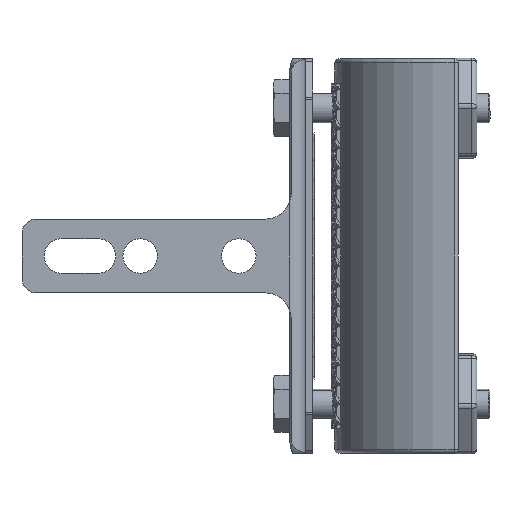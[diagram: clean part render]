
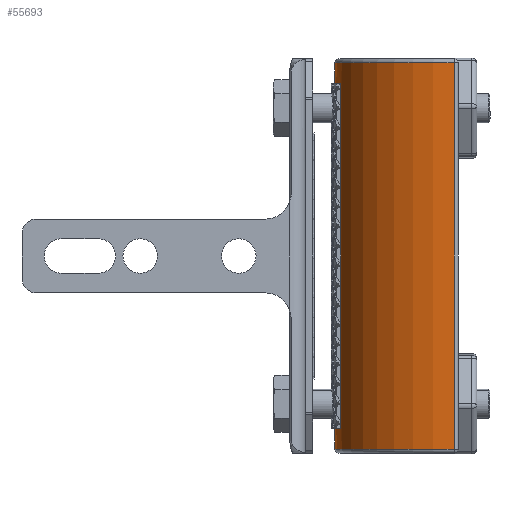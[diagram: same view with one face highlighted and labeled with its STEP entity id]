
A CAD part, left-side view. The second image highlights one B-rep face of the part: STEP entity #55693.
In plain terms, the highlighted cylindrical face has radius 25 mm (diameter 50 mm), a partial arc.
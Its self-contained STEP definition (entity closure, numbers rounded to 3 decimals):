
#548 = VERTEX_POINT ( 'NONE', #56103 ) ;
#1087 = AXIS2_PLACEMENT_3D ( 'NONE', #43068, #55900, #9887 ) ;
#1172 = CARTESIAN_POINT ( 'NONE',  ( -7.5, 23.848, -35. ) ) ;
#1203 = EDGE_LOOP ( 'NONE', ( #49667, #30813, #44778, #5328 ) ) ;
#2832 = DIRECTION ( 'NONE',  ( 0., 0., 1. ) ) ;
#4632 = CARTESIAN_POINT ( 'NONE',  ( 0., 0., 39.25 ) ) ;
#5328 = ORIENTED_EDGE ( 'NONE', *, *, #37073, .T. ) ;
#6333 = CARTESIAN_POINT ( 'NONE',  ( -7.5, 23.848, 35. ) ) ;
#8003 = CARTESIAN_POINT ( 'NONE',  ( 0., 0., -39.25 ) ) ;
#8675 = DIRECTION ( 'NONE',  ( 1., 0., 0. ) ) ;
#9354 = VERTEX_POINT ( 'NONE', #21393 ) ;
#9525 = EDGE_CURVE ( 'NONE', #65986, #39772, #28785, .T. ) ;
#9887 = DIRECTION ( 'NONE',  ( -1., 0., 0. ) ) ;
#9922 = EDGE_CURVE ( 'NONE', #10798, #30070, #42062, .T. ) ;
#10208 = CARTESIAN_POINT ( 'NONE',  ( -24.988, 0.773, 39.25 ) ) ;
#10289 = DIRECTION ( 'NONE',  ( 0., 0., -1. ) ) ;
#10798 = VERTEX_POINT ( 'NONE', #30206 ) ;
#10985 = DIRECTION ( 'NONE',  ( 0., 0., -1. ) ) ;
#11974 = CIRCLE ( 'NONE', #41110, 25. ) ;
#12000 = CARTESIAN_POINT ( 'NONE',  ( -24.988, 0.773, -39.25 ) ) ;
#14808 = VERTEX_POINT ( 'NONE', #10208 ) ;
#14857 = DIRECTION ( 'NONE',  ( 0., 0., -1. ) ) ;
#15095 = LINE ( 'NONE', #16455, #69002 ) ;
#16455 = CARTESIAN_POINT ( 'NONE',  ( 24.988, 0.773, 40. ) ) ;
#16624 = FACE_BOUND ( 'NONE', #1203, .T. ) ;
#17075 = CARTESIAN_POINT ( 'NONE',  ( 7.5, 23.848, -35. ) ) ;
#19143 = EDGE_CURVE ( 'NONE', #14808, #49513, #41995, .T. ) ;
#19813 = VECTOR ( 'NONE', #48494, 1000. ) ;
#20774 = CIRCLE ( 'NONE', #23596, 25. ) ;
#20821 = VECTOR ( 'NONE', #36034, 1000. ) ;
#21393 = CARTESIAN_POINT ( 'NONE',  ( 24.988, 0.773, 39.25 ) ) ;
#22115 = ORIENTED_EDGE ( 'NONE', *, *, #33461, .T. ) ;
#23596 = AXIS2_PLACEMENT_3D ( 'NONE', #4632, #10289, #26639 ) ;
#23739 = ORIENTED_EDGE ( 'NONE', *, *, #72227, .T. ) ;
#26639 = DIRECTION ( 'NONE',  ( 1., 0., 0. ) ) ;
#28785 = LINE ( 'NONE', #57450, #44724 ) ;
#30070 = VERTEX_POINT ( 'NONE', #17075 ) ;
#30206 = CARTESIAN_POINT ( 'NONE',  ( 7.5, 23.848, 35. ) ) ;
#30813 = ORIENTED_EDGE ( 'NONE', *, *, #42330, .F. ) ;
#33461 = EDGE_CURVE ( 'NONE', #548, #49513, #43845, .T. ) ;
#33491 = FACE_OUTER_BOUND ( 'NONE', #66182, .T. ) ;
#35004 = DIRECTION ( 'NONE',  ( 0., 0., -1. ) ) ;
#35558 = CARTESIAN_POINT ( 'NONE',  ( 7.5, 23.848, 35. ) ) ;
#36034 = DIRECTION ( 'NONE',  ( 0., 0., -1. ) ) ;
#36682 = CARTESIAN_POINT ( 'NONE',  ( 0., 0., -35. ) ) ;
#37073 = EDGE_CURVE ( 'NONE', #39772, #30070, #61340, .T. ) ;
#39772 = VERTEX_POINT ( 'NONE', #1172 ) ;
#40575 = CYLINDRICAL_SURFACE ( 'NONE', #1087, 25. ) ;
#41110 = AXIS2_PLACEMENT_3D ( 'NONE', #54914, #66416, #43764 ) ;
#41908 = ORIENTED_EDGE ( 'NONE', *, *, #19143, .F. ) ;
#41995 = LINE ( 'NONE', #42351, #19813 ) ;
#42062 = LINE ( 'NONE', #35558, #20821 ) ;
#42330 = EDGE_CURVE ( 'NONE', #65986, #10798, #11974, .T. ) ;
#42351 = CARTESIAN_POINT ( 'NONE',  ( -24.988, 0.773, 40. ) ) ;
#42609 = EDGE_CURVE ( 'NONE', #14808, #9354, #20774, .T. ) ;
#43068 = CARTESIAN_POINT ( 'NONE',  ( 0., 0., 40. ) ) ;
#43764 = DIRECTION ( 'NONE',  ( 1., 0., 0. ) ) ;
#43845 = CIRCLE ( 'NONE', #51553, 25. ) ;
#44724 = VECTOR ( 'NONE', #35004, 1000. ) ;
#44778 = ORIENTED_EDGE ( 'NONE', *, *, #9525, .T. ) ;
#46889 = ORIENTED_EDGE ( 'NONE', *, *, #42609, .T. ) ;
#48494 = DIRECTION ( 'NONE',  ( 0., 0., -1. ) ) ;
#49513 = VERTEX_POINT ( 'NONE', #12000 ) ;
#49667 = ORIENTED_EDGE ( 'NONE', *, *, #9922, .F. ) ;
#51553 = AXIS2_PLACEMENT_3D ( 'NONE', #8003, #2832, #64557 ) ;
#54914 = CARTESIAN_POINT ( 'NONE',  ( 0., 0., 35. ) ) ;
#55693 = ADVANCED_FACE ( 'NONE', ( #16624, #33491 ), #40575, .T. ) ;
#55900 = DIRECTION ( 'NONE',  ( 0., 0., -1. ) ) ;
#56103 = CARTESIAN_POINT ( 'NONE',  ( 24.988, 0.773, -39.25 ) ) ;
#57450 = CARTESIAN_POINT ( 'NONE',  ( -7.5, 23.848, 35. ) ) ;
#61340 = CIRCLE ( 'NONE', #72377, 25. ) ;
#64557 = DIRECTION ( 'NONE',  ( 1., 0., 0. ) ) ;
#65986 = VERTEX_POINT ( 'NONE', #6333 ) ;
#66182 = EDGE_LOOP ( 'NONE', ( #41908, #46889, #23739, #22115 ) ) ;
#66416 = DIRECTION ( 'NONE',  ( 0., 0., -1. ) ) ;
#69002 = VECTOR ( 'NONE', #10985, 1000. ) ;
#72227 = EDGE_CURVE ( 'NONE', #9354, #548, #15095, .T. ) ;
#72377 = AXIS2_PLACEMENT_3D ( 'NONE', #36682, #14857, #8675 ) ;
